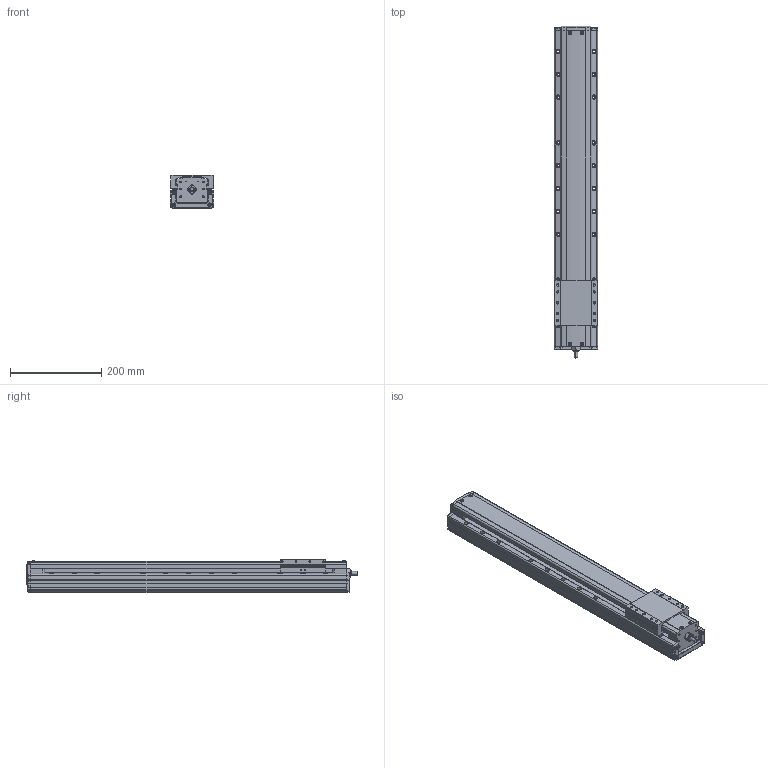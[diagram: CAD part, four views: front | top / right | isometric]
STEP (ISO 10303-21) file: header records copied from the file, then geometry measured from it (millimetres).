
FILE_DESCRIPTION(('STEP AP214'),'1');
FILE_NAME('Z:/Web/3D/PSA95/STP/PSA95-500 (3D)/PSA95ㅁㅁ-500.stp','2014-07-03T00:22:04',(' '),(' '),'Spatial InterOp 3D',' ',' ');
FILE_SCHEMA(('automotive_design'));
Length unit declared in the file: millimetre
Products named in the file (18): BASE; RRCV; 스크루 : Round - M4.0 x 10.0; 너트 : Square - M10.0 x 220.7419; RR1500; FRCV-090; 스크루 : Round - M4.0 x 6.0; SLBL-PA90
Bounding box: 95 x 726 x 74 mm (x, y, z)
Volume: 3798487.5 mm3; surface area: 393077.7 mm2
Topology: 18 solids, 18 shells, 1827 faces, 4942 edges, 3150 vertices
Faces by surface type: plane 1011, cylinder 567, cone 181, sphere 30, bspline 24, torus 14
Entity records: 74039 total; most frequent: CARTESIAN_POINT 12972, ORIENTED_EDGE 9636, DIRECTION 9622, EDGE_CURVE 4818, LINE 3314, VECTOR 3314, AXIS2_PLACEMENT_3D 3154, VERTEX_POINT 3150
